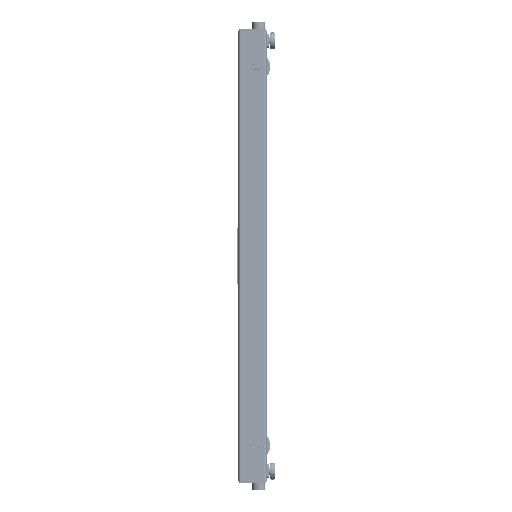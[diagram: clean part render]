
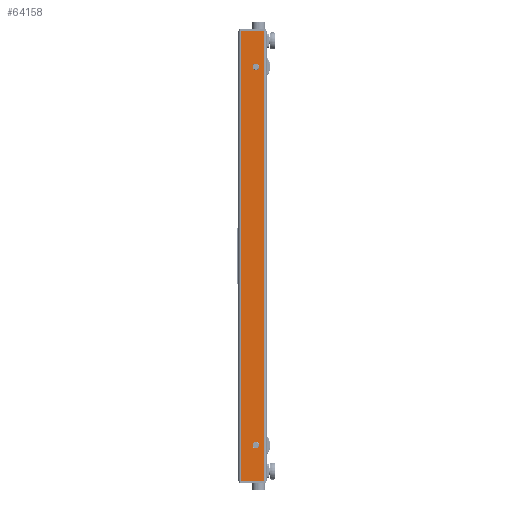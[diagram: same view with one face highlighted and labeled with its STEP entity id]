
A CAD part, left-side view. The second image highlights one B-rep face of the part: STEP entity #64158.
In plain terms, the highlighted planar face has unit normal (-1, 0, 0).
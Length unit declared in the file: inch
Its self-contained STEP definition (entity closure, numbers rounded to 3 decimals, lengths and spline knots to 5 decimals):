
#10 = DIRECTION ( 'NONE',  ( 1., 0., 0. ) ) ;
#6233 = AXIS2_PLACEMENT_3D ( 'NONE', #9636, #10, #56769 ) ;
#9636 = CARTESIAN_POINT ( 'NONE',  ( 0., 0.5, 95.125 ) ) ;
#10216 = DIRECTION ( 'NONE',  ( 0., -1., 0. ) ) ;
#10975 = DIRECTION ( 'NONE',  ( 0., 0., -1. ) ) ;
#11088 = PLANE ( 'NONE',  #6233 ) ;
#14900 = VERTEX_POINT ( 'NONE', #49065 ) ;
#16369 = DIRECTION ( 'NONE',  ( 1., 0., 0. ) ) ;
#16558 = CARTESIAN_POINT ( 'NONE',  ( 0., 3.016, 87.563 ) ) ;
#17877 = VECTOR ( 'NONE', #33540, 39.37008 ) ;
#18026 = DIRECTION ( 'NONE',  ( 1., 0., 0. ) ) ;
#18673 = ORIENTED_EDGE ( 'NONE', *, *, #114866, .T. ) ;
#19225 = VERTEX_POINT ( 'NONE', #80943 ) ;
#20444 = CARTESIAN_POINT ( 'NONE',  ( 0., 2.326, 87.563 ) ) ;
#21148 = DIRECTION ( 'NONE',  ( 1., 0., 0. ) ) ;
#21441 = VECTOR ( 'NONE', #27129, 39.37008 ) ;
#24722 = AXIS2_PLACEMENT_3D ( 'NONE', #36299, #102643, #58430 ) ;
#26720 = DIRECTION ( 'NONE',  ( 0., 0., -1. ) ) ;
#27129 = DIRECTION ( 'NONE',  ( 0., -1., 0. ) ) ;
#29490 = VERTEX_POINT ( 'NONE', #95809 ) ;
#33540 = DIRECTION ( 'NONE',  ( 0., 0., -1. ) ) ;
#34639 = FACE_BOUND ( 'NONE', #46159, .T. ) ;
#36185 = VERTEX_POINT ( 'NONE', #88144 ) ;
#36299 = CARTESIAN_POINT ( 'NONE',  ( 0., 2.326, 7.563 ) ) ;
#37041 = CARTESIAN_POINT ( 'NONE',  ( 0., 2.326, 7.563 ) ) ;
#42315 = VERTEX_POINT ( 'NONE', #44034 ) ;
#42405 = CIRCLE ( 'NONE', #136600, 0.69 ) ;
#44034 = CARTESIAN_POINT ( 'NONE',  ( 0., 1.636, 87.563 ) ) ;
#46159 = EDGE_LOOP ( 'NONE', ( #109509, #133857 ) ) ;
#47778 = CARTESIAN_POINT ( 'NONE',  ( 0., 0.5, 0. ) ) ;
#49065 = CARTESIAN_POINT ( 'NONE',  ( 0., 5.5, 95.125 ) ) ;
#50538 = EDGE_LOOP ( 'NONE', ( #131005, #51801 ) ) ;
#51801 = ORIENTED_EDGE ( 'NONE', *, *, #61181, .T. ) ;
#55626 = CIRCLE ( 'NONE', #137979, 0.69 ) ;
#56769 = DIRECTION ( 'NONE',  ( 0., 1., 0. ) ) ;
#57673 = CIRCLE ( 'NONE', #24722, 0.69 ) ;
#58055 = VERTEX_POINT ( 'NONE', #16558 ) ;
#58430 = DIRECTION ( 'NONE',  ( 0., 0., -1. ) ) ;
#61181 = EDGE_CURVE ( 'NONE', #42315, #58055, #42405, .T. ) ;
#63009 = DIRECTION ( 'NONE',  ( 0., 1., 0. ) ) ;
#64158 = ADVANCED_FACE ( 'NONE', ( #34639, #123863, #144527 ), #11088, .F. ) ;
#66987 = LINE ( 'NONE', #110432, #138638 ) ;
#68438 = CARTESIAN_POINT ( 'NONE',  ( 0., 5.5, 95.125 ) ) ;
#76455 = DIRECTION ( 'NONE',  ( 0., 1., 0. ) ) ;
#80921 = CARTESIAN_POINT ( 'NONE',  ( 0., 2.326, 6.873 ) ) ;
#80943 = CARTESIAN_POINT ( 'NONE',  ( 0., 0.5, 0. ) ) ;
#85545 = CARTESIAN_POINT ( 'NONE',  ( 0., 5.5, 0. ) ) ;
#85802 = CARTESIAN_POINT ( 'NONE',  ( 0., 2.326, 87.563 ) ) ;
#86827 = EDGE_CURVE ( 'NONE', #58055, #42315, #115964, .T. ) ;
#88144 = CARTESIAN_POINT ( 'NONE',  ( 0., 0.5, 95.125 ) ) ;
#88656 = ORIENTED_EDGE ( 'NONE', *, *, #138691, .F. ) ;
#89501 = LINE ( 'NONE', #134507, #17877 ) ;
#89581 = ORIENTED_EDGE ( 'NONE', *, *, #110208, .T. ) ;
#90139 = VERTEX_POINT ( 'NONE', #85545 ) ;
#95809 = CARTESIAN_POINT ( 'NONE',  ( 0., 2.326, 8.253 ) ) ;
#102307 = LINE ( 'NONE', #68438, #104407 ) ;
#102643 = DIRECTION ( 'NONE',  ( 1., 0., 0. ) ) ;
#104407 = VECTOR ( 'NONE', #10975, 39.37008 ) ;
#107542 = EDGE_CURVE ( 'NONE', #14900, #36185, #66987, .T. ) ;
#109509 = ORIENTED_EDGE ( 'NONE', *, *, #120972, .T. ) ;
#110208 = EDGE_CURVE ( 'NONE', #90139, #19225, #128118, .T. ) ;
#110432 = CARTESIAN_POINT ( 'NONE',  ( 0., 0.5, 95.125 ) ) ;
#114866 = EDGE_CURVE ( 'NONE', #14900, #90139, #102307, .T. ) ;
#114953 = VERTEX_POINT ( 'NONE', #80921 ) ;
#115964 = CIRCLE ( 'NONE', #118410, 0.69 ) ;
#118410 = AXIS2_PLACEMENT_3D ( 'NONE', #20444, #21148, #76455 ) ;
#120825 = ORIENTED_EDGE ( 'NONE', *, *, #107542, .F. ) ;
#120972 = EDGE_CURVE ( 'NONE', #114953, #29490, #55626, .T. ) ;
#123863 = FACE_BOUND ( 'NONE', #50538, .T. ) ;
#124456 = EDGE_LOOP ( 'NONE', ( #89581, #88656, #120825, #18673 ) ) ;
#128118 = LINE ( 'NONE', #47778, #21441 ) ;
#131005 = ORIENTED_EDGE ( 'NONE', *, *, #86827, .T. ) ;
#133857 = ORIENTED_EDGE ( 'NONE', *, *, #137235, .T. ) ;
#134507 = CARTESIAN_POINT ( 'NONE',  ( 0., 0.5, 95.125 ) ) ;
#136600 = AXIS2_PLACEMENT_3D ( 'NONE', #85802, #18026, #63009 ) ;
#137235 = EDGE_CURVE ( 'NONE', #29490, #114953, #57673, .T. ) ;
#137979 = AXIS2_PLACEMENT_3D ( 'NONE', #37041, #16369, #26720 ) ;
#138638 = VECTOR ( 'NONE', #10216, 39.37008 ) ;
#138691 = EDGE_CURVE ( 'NONE', #36185, #19225, #89501, .T. ) ;
#144527 = FACE_OUTER_BOUND ( 'NONE', #124456, .T. ) ;
